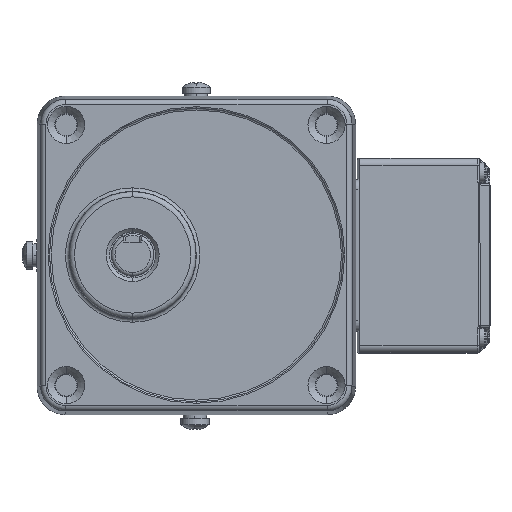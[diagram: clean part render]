
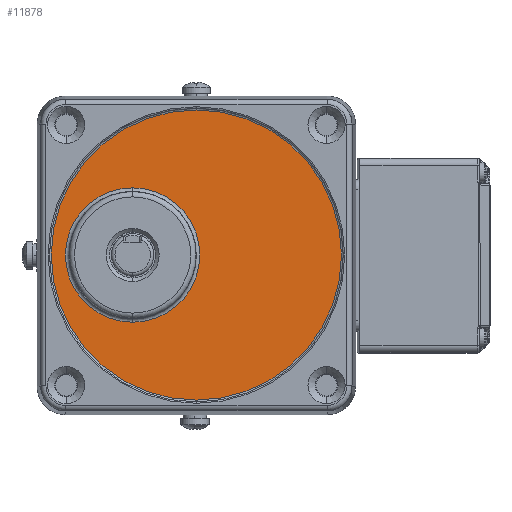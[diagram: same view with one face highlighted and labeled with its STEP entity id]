
A CAD part, top view. The second image highlights one B-rep face of the part: STEP entity #11878.
In plain terms, the highlighted planar face has unit normal (0, 0, 1) as drawn and (1, 0, 0) by its records, which use the part's own axes.
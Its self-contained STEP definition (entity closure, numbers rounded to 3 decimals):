
#1206 = FACE_OUTER_BOUND ( 'NONE', #8573, .T. ) ;
#1573 = CARTESIAN_POINT ( 'NONE',  ( 2697.792, -756.175, 18. ) ) ;
#8287 = CARTESIAN_POINT ( 'NONE',  ( 2697.792, -775.157, 18. ) ) ;
#8573 = EDGE_LOOP ( 'NONE', ( #52314, #65906 ) ) ;
#8751 = VERTEX_POINT ( 'NONE', #68678 ) ;
#8867 = VERTEX_POINT ( 'NONE', #66835 ) ;
#9261 = CIRCLE ( 'NONE', #38704, 18.983 ) ;
#10974 = DIRECTION ( 'NONE',  ( 1., 0., 0. ) ) ;
#11878 = ADVANCED_FACE ( 'NONE', ( #1206, #66363 ), #27080, .T. ) ;
#15491 = CARTESIAN_POINT ( 'NONE',  ( 2697.792, -816.149, 0. ) ) ;
#18416 = EDGE_CURVE ( 'NONE', #42900, #8867, #39411, .T. ) ;
#18805 = ORIENTED_EDGE ( 'NONE', *, *, #52257, .F. ) ;
#19628 = AXIS2_PLACEMENT_3D ( 'NONE', #43736, #38753, #48680 ) ;
#23891 = DIRECTION ( 'NONE',  ( 0., 1., 0. ) ) ;
#27080 = PLANE ( 'NONE',  #19628 ) ;
#30268 = CIRCLE ( 'NONE', #50689, 18.983 ) ;
#30597 = DIRECTION ( 'NONE',  ( 1., 0., 0. ) ) ;
#31297 = EDGE_CURVE ( 'NONE', #8867, #42900, #58956, .T. ) ;
#36261 = DIRECTION ( 'NONE',  ( -1., 0., 0. ) ) ;
#36606 = CARTESIAN_POINT ( 'NONE',  ( 2697.792, -775.157, 0. ) ) ;
#38704 = AXIS2_PLACEMENT_3D ( 'NONE', #8287, #30597, #23891 ) ;
#38753 = DIRECTION ( 'NONE',  ( 1., 0., 0. ) ) ;
#39411 = CIRCLE ( 'NONE', #60886, 40.991 ) ;
#40527 = CARTESIAN_POINT ( 'NONE',  ( 2697.792, -775.157, 0. ) ) ;
#41734 = VERTEX_POINT ( 'NONE', #1573 ) ;
#42900 = VERTEX_POINT ( 'NONE', #15491 ) ;
#43736 = CARTESIAN_POINT ( 'NONE',  ( 2697.792, -775.157, 0. ) ) ;
#45761 = ORIENTED_EDGE ( 'NONE', *, *, #55816, .F. ) ;
#48680 = DIRECTION ( 'NONE',  ( 0., 1., 0. ) ) ;
#50689 = AXIS2_PLACEMENT_3D ( 'NONE', #52830, #10974, #58813 ) ;
#51514 = DIRECTION ( 'NONE',  ( 0., -1., 0. ) ) ;
#52257 = EDGE_CURVE ( 'NONE', #8751, #41734, #30268, .T. ) ;
#52314 = ORIENTED_EDGE ( 'NONE', *, *, #18416, .F. ) ;
#52830 = CARTESIAN_POINT ( 'NONE',  ( 2697.792, -775.157, 18. ) ) ;
#55816 = EDGE_CURVE ( 'NONE', #41734, #8751, #9261, .T. ) ;
#56696 = AXIS2_PLACEMENT_3D ( 'NONE', #36606, #36261, #57845 ) ;
#57845 = DIRECTION ( 'NONE',  ( 0., 1., 0. ) ) ;
#58813 = DIRECTION ( 'NONE',  ( 0., -1., 0. ) ) ;
#58956 = CIRCLE ( 'NONE', #56696, 40.991 ) ;
#59289 = EDGE_LOOP ( 'NONE', ( #18805, #45761 ) ) ;
#60886 = AXIS2_PLACEMENT_3D ( 'NONE', #40527, #67788, #51514 ) ;
#65906 = ORIENTED_EDGE ( 'NONE', *, *, #31297, .F. ) ;
#66363 = FACE_BOUND ( 'NONE', #59289, .T. ) ;
#66835 = CARTESIAN_POINT ( 'NONE',  ( 2697.792, -734.166, 0. ) ) ;
#67788 = DIRECTION ( 'NONE',  ( -1., 0., 0. ) ) ;
#68678 = CARTESIAN_POINT ( 'NONE',  ( 2697.792, -794.14, 18. ) ) ;
